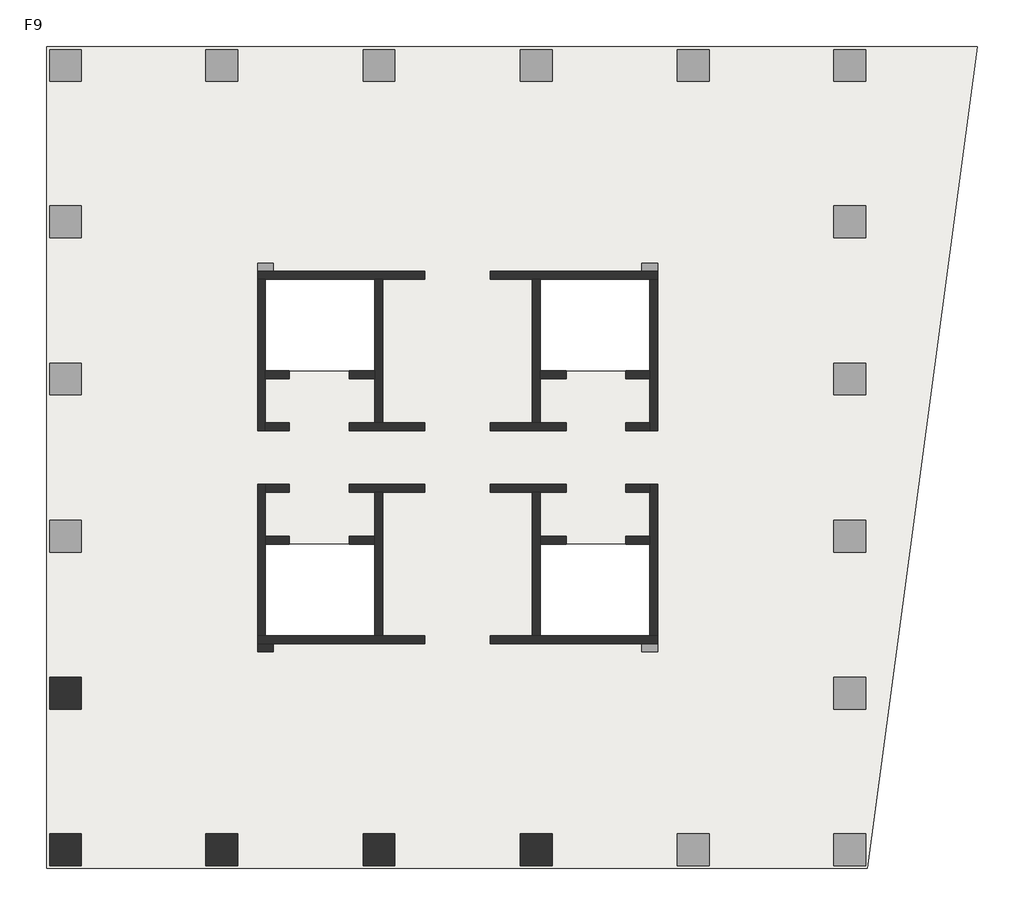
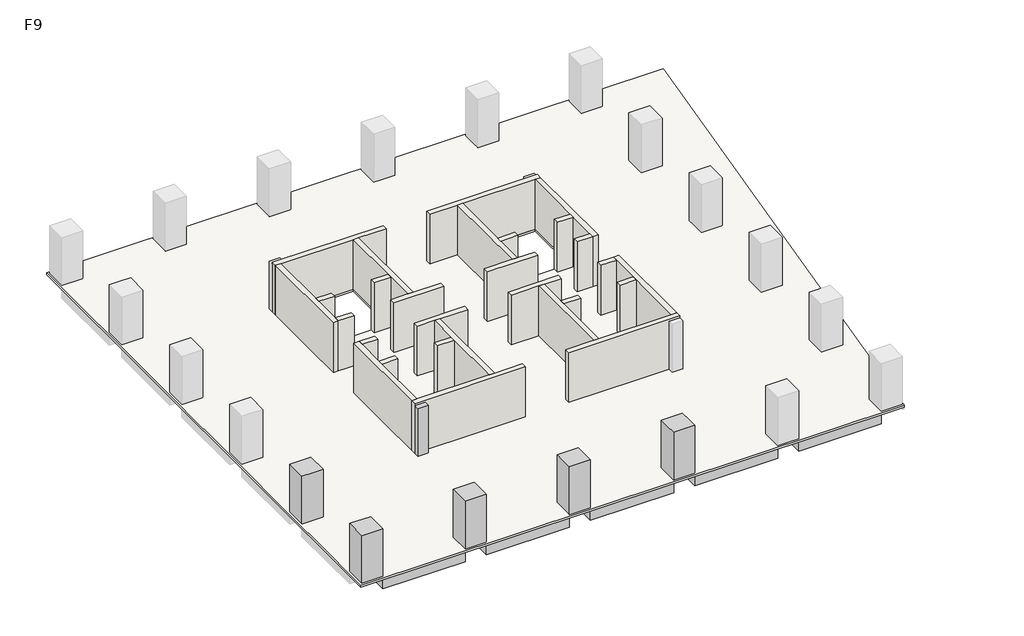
# One storey, part 1 of 2: 28 walls, 6 columns, 5 beams, 1 slab.
"""IFC4 building model written with IfcOpenShell, lengths in millimetres."""

import ifcopenshell
import ifcopenshell.guid

model = None  # the IFC model being written
_history = None  # IfcOwnerHistory: only IFC2X3 demands one
_inside = {}  # id of a spatial element -> (the spatial element, [elements in it])
_under = {}  # id of a project, library or spatial element -> (it, [spatial elements below it])
_declared = {}  # id of a project -> (the project, [libraries it declares])
_typed = {}  # id of a type object -> (the type object, [elements of that type])
_made_of = {}  # id of a material, layer set ... -> (it, [elements and type objects made of it])


def new_model(schema):
    """Start an empty IFC model of exactly this schema.

    Asked for "IFC4X3", IfcOpenShell would pick the latest addendum, in which some entities
    have other attributes; the version numbers below select the first issue.
    IFC2X3 requires an IfcOwnerHistory on every rooted entity: one is made here for all.
    """
    global model, _history
    if schema == "IFC4X3":
        model = ifcopenshell.file(schema_version=(4, 3, 0, 0))
    else:
        model = ifcopenshell.file(schema=schema)
    _inside.clear()
    _under.clear()
    _declared.clear()
    _typed.clear()
    _made_of.clear()
    _history = None
    if model.schema == "IFC2X3":
        org = make("IfcOrganization", Name="unknown")
        user = make(
            "IfcPersonAndOrganization",
            ThePerson=make("IfcPerson", FamilyName="unknown"),
            TheOrganization=org,
        )
        app = make(
            "IfcApplication",
            ApplicationDeveloper=org,
            Version="unknown",
            ApplicationFullName="unknown",
            ApplicationIdentifier="unknown",
        )
        _history = make(
            "IfcOwnerHistory",
            OwningUser=user,
            OwningApplication=app,
            ChangeAction="ADDED",
            CreationDate=0,
        )
    return model


def make(cls, **values):
    """One entity of the class cls with the attributes given. An attribute that is None is left unset."""
    return model.create_entity(
        cls, **{name: value for name, value in values.items() if value is not None}
    )


def rooted(cls, **values):
    """An entity with a GlobalId (a new one), such as an element, a storey or a relation."""
    return make(cls, GlobalId=ifcopenshell.guid.new(), OwnerHistory=_history, **values)


def si_unit(unit_type, name, prefix=None):
    """IfcSIUnit, for example si_unit("LENGTHUNIT", "METRE", prefix="MILLI")."""
    return make("IfcSIUnit", UnitType=unit_type, Prefix=prefix, Name=name)


def assignment(units):
    """IfcUnitAssignment: the units of a project."""
    return None if units is None else make("IfcUnitAssignment", Units=units)


def point(xyz):
    """IfcCartesianPoint."""
    return None if xyz is None else make("IfcCartesianPoint", Coordinates=xyz)


def direction(xyz):
    """IfcDirection."""
    return None if xyz is None else make("IfcDirection", DirectionRatios=xyz)


def frame(location, z_axis=None, x_axis=None):
    """IfcAxis2Placement3D, a coordinate frame: its origin and axes. An axis left out is left unset."""
    return make(
        "IfcAxis2Placement3D",
        Location=point(location),
        Axis=direction(z_axis),
        RefDirection=direction(x_axis),
    )


def origin():
    """The frame at (0, 0, 0) with its axes left unset."""
    return frame((0.0, 0.0, 0.0))


def place(relative_to, where):
    """IfcLocalPlacement: puts the frame where relative to a parent placement (None: the world)."""
    return make(
        "IfcLocalPlacement", PlacementRelTo=relative_to, RelativePlacement=where
    )


def context(
    kind, dimensions, precision=None, world=None, true_north=None, identifier=None
):
    """IfcGeometricRepresentationContext, for example the 3D "Model" context."""
    return make(
        "IfcGeometricRepresentationContext",
        ContextIdentifier=identifier,
        ContextType=kind,
        CoordinateSpaceDimension=dimensions,
        Precision=precision,
        WorldCoordinateSystem=world,
        TrueNorth=true_north,
    )


def project(units=None, contexts=None):
    """IfcProject with its units and contexts."""
    return rooted(
        "IfcProject",
        Name="project",
        RepresentationContexts=contexts,
        UnitsInContext=assignment(units),
    )


def spatial(cls, under=None, at=None, **own):
    """A site, building, storey or space (cls), placed at a placement, below another one or the project."""
    s = rooted(cls, ObjectPlacement=at, **own)
    if under is not None:
        _under.setdefault(under.id(), (under, []))[1].append(s)
    return s


def polyline(points):
    """IfcPolyline through the points."""
    return make("IfcPolyline", Points=[point(p) for p in points])


def outline(outer, holes=None, kind="AREA"):
    """IfcArbitraryClosedProfileDef: a profile drawn as a closed curve; with holes, ...WithVoids."""
    if holes is None:
        return make("IfcArbitraryClosedProfileDef", ProfileType=kind, OuterCurve=outer)
    return make(
        "IfcArbitraryProfileDefWithVoids",
        ProfileType=kind,
        OuterCurve=outer,
        InnerCurves=holes,
    )


def extrude(swept, where, along, depth):
    """IfcExtrudedAreaSolid: the profile swept, set in the frame where, extruded along a direction by depth."""
    return make(
        "IfcExtrudedAreaSolid",
        SweptArea=swept,
        Position=where,
        ExtrudedDirection=direction(along),
        Depth=depth,
    )


def faces_of(points, faces, orient=None, outer=None):
    """IfcFace entities. A face is a list of loops; a loop is a list of indices into points, from 0.

    orient and outer hold one flag for each loop. By default every Orientation is true, the
    first loop of a face is its IfcFaceOuterBound and the others are IfcFaceBound.
    """
    made = []
    for i, loops in enumerate(faces):
        bounds = []
        for j, loop in enumerate(loops):
            is_outer = j == 0 if outer is None else outer[i][j]
            bounds.append(
                make(
                    "IfcFaceOuterBound" if is_outer else "IfcFaceBound",
                    Bound=make("IfcPolyLoop", Polygon=[points[k] for k in loop]),
                    Orientation=True if orient is None else orient[i][j],
                )
            )
        made.append(make("IfcFace", Bounds=bounds))
    return made


def faceted_brep(points, faces, orient=None, outer=None, voids=None):
    """IfcFacetedBrep: a solid bounded by flat faces; with voids (closed shells), ...WithVoids."""
    shared = [point(p) for p in points]
    hull = make("IfcClosedShell", CfsFaces=faces_of(shared, faces, orient, outer))
    if voids is None:
        return make("IfcFacetedBrep", Outer=hull)
    return make(
        "IfcFacetedBrepWithVoids",
        Outer=hull,
        Voids=[
            make(cls, CfsFaces=faces_of(shared, fs, o, b)) for cls, fs, o, b in voids
        ],
    )


def shape(context_of_items, identifier, shape_type, items):
    """IfcShapeRepresentation: the items that make up one representation, for example the "Body"."""
    return make(
        "IfcShapeRepresentation",
        ContextOfItems=context_of_items,
        RepresentationIdentifier=identifier,
        RepresentationType=shape_type,
        Items=items,
    )


def made_of(thing, what):
    """Note that an element or type object is made of a material, layer set ...; save() writes the relation."""
    if what is not None:
        _made_of.setdefault(what.id(), (what, []))[1].append(thing)
    return thing


def element(
    cls,
    number,
    at=None,
    inside=None,
    cuts=None,
    type_object=None,
    material=None,
    context=None,
    identifier="Body",
    shape_type=None,
    held_by="IfcProductDefinitionShape",
    body=None,
    shapes=None,
    **own,
):
    """One element of the class cls, such as IfcWall. Its Tag is "e" and its number.

    at: its placement. inside: the storey or other place that contains it. cuts: it is an
    opening in that element (IfcRelVoidsElement). A single representation is given by context,
    identifier, shape_type and body (its items); several are given by shapes. held_by: the class
    of the entity that holds the representations. save() writes the other relations.
    """
    e = rooted(cls, Tag="e%d" % number, ObjectPlacement=at, **own)
    if body is not None:
        shapes = [shape(context, identifier, shape_type, body)]
    if shapes is not None:
        e.Representation = make(held_by, Representations=shapes)
    if inside is not None:
        _inside.setdefault(inside.id(), (inside, []))[1].append(e)
    if cuts is not None:
        rooted(
            "IfcRelVoidsElement", RelatingBuildingElement=cuts, RelatedOpeningElement=e
        )
    if type_object is not None:
        _typed.setdefault(type_object.id(), (type_object, []))[1].append(e)
    return made_of(e, material)


def aggregate(whole, parts):
    """IfcRelAggregates: a whole, such as a stair, and the parts it consists of."""
    return rooted("IfcRelAggregates", RelatingObject=whole, RelatedObjects=parts)


def save(model, path):
    """Write the relations noted so far, then the file.

    IfcRelAggregates (storeys below a building ...), IfcRelContainedInSpatialStructure (elements
    in a storey), IfcRelDefinesByType, IfcRelAssociatesMaterial and IfcRelDeclares: one each for
    every whole, place, type object, material and project.
    """
    for whole, parts in _under.values():
        aggregate(whole, parts)
    for where, things in _inside.values():
        rooted(
            "IfcRelContainedInSpatialStructure",
            RelatedElements=things,
            RelatingStructure=where,
        )
    for kind, things in _typed.values():
        rooted("IfcRelDefinesByType", RelatedObjects=things, RelatingType=kind)
    for what, things in _made_of.values():
        rooted("IfcRelAssociatesMaterial", RelatedObjects=things, RelatingMaterial=what)
    for by, libraries in _declared.values():
        rooted("IfcRelDeclares", RelatingContext=by, RelatedDefinitions=libraries)
    model.write(path)


model = new_model("IFC4")

# Units and contexts
model_context = context("Model", 3, world=origin())
ifc_project = project(units=[si_unit("LENGTHUNIT", "METRE", prefix="MILLI")], contexts=[model_context])

# Site, building, storey
site = spatial("IfcSite", under=ifc_project)
building = spatial("IfcBuilding", under=site)
storey = spatial("IfcBuildingStorey", under=building, Name="F9", Elevation=36000.0)

# Beams
placement = place(None, origin())
element("IfcBeam", 1, ObjectType="混凝土 - 矩形梁 : KL(5)-800x1000", at=placement, inside=storey, context=model_context, shape_type="SweptSolid", body=[
    extrude(outline(polyline([(-12472.6742169, -13948.9501342), (-12472.6742169, -13148.9501342), (-6222.6742169, -13148.9501342), (-6222.6742169, -13948.9501342), (-12472.6742169, -13948.9501342)])), frame((0.0, 0.0, 35000.0), z_axis=(0.0, 0.0, 1.0), x_axis=(1.0, 0.0, 0.0)), (0.0, 0.0, 1.0), 840.0),
    extrude(outline(polyline([(25327.3257831, -13148.9501342), (25327.3257831, -13948.9501342), (19077.3257831, -13948.9501342), (19077.3257831, -13148.9501342), (25327.3257831, -13148.9501342)])), frame((0.0, 0.0, 35000.0), z_axis=(0.0, 0.0, 1.0), x_axis=(1.0, 0.0, 0.0)), (0.0, 0.0, 1.0), 840.0),
    extrude(outline(polyline([(-4622.6742169, -13948.9501342), (-4622.6742169, -13148.9501342), (1677.3257831, -13148.9501342), (1677.3257831, -13948.9501342), (-4622.6742169, -13948.9501342)])), frame((0.0, 0.0, 35000.0), z_axis=(0.0, 0.0, 1.0), x_axis=(1.0, 0.0, 0.0)), (0.0, 0.0, 1.0), 840.0),
    extrude(outline(polyline([(3277.3257831, -13948.9501342), (3277.3257831, -13148.9501342), (9577.3257831, -13148.9501342), (9577.3257831, -13948.9501342), (3277.3257831, -13948.9501342)])), frame((0.0, 0.0, 35000.0), z_axis=(0.0, 0.0, 1.0), x_axis=(1.0, 0.0, 0.0)), (0.0, 0.0, 1.0), 840.0),
    extrude(outline(polyline([(11177.3257831, -13948.9501342), (11177.3257831, -13148.9501342), (17477.3257831, -13148.9501342), (17477.3257831, -13948.9501342), (11177.3257831, -13948.9501342)])), frame((0.0, 0.0, 35000.0), z_axis=(0.0, 0.0, 1.0), x_axis=(1.0, 0.0, 0.0)), (0.0, 0.0, 1.0), 840.0),
])
element("IfcBeam", 2, ObjectType="混凝土 - 矩形梁 : L1-800x500", at=placement, inside=storey, context=model_context, shape_type="Brep", body=[
    faceted_brep([(-12472.6742169, -5512.1353397, 35500.0), (-3746.9473979, -3341.556529, 35500.0), (-3173.6696907, -3198.9501342, 35500.0), (-3173.6696907, -3198.9501342, 35840.0), (-3746.9473979, -3341.556529, 35840.0), (-12472.6742169, -5512.1353397, 35840.0), (-3622.6742169, -3198.9501342, 35500.0), (-12472.6742169, -4687.7549784, 35500.0), (-3622.6742169, -2486.2624411, 35500.0), (-3622.6742169, -2798.9501342, 35500.0), (-12472.6742169, -4687.7549784, 35840.0), (-3622.6742169, -2486.2624411, 35840.0), (-3622.6742169, -3198.9501342, 35840.0)], [[[0, 1, 2, 3, 4, 5]], [[6, 2, 1, 0, 7, 8, 9]], [[8, 7, 10, 11]], [[2, 6, 12, 3]], [[9, 8, 11, 12, 6]], [[7, 0, 5, 10]], [[5, 4, 3, 12, 11, 10]]]),
])
element("IfcBeam", 3, ObjectType="混凝土 - 矩形梁 : L1-800x500", at=placement, inside=storey, context=model_context, shape_type="SweptSolid", body=[
    extrude(outline(polyline([(-3746.9473979, -3341.556529), (-3173.6696907, -3198.9501342), (-2898.7618154, -3198.9501342), (-4843.6893517, -12348.9501342), (-5661.5624638, -12348.9501342), (-3746.9473979, -3341.556529)])), frame((0.0, 0.0, 35500.0), z_axis=(0.0, 0.0, 1.0), x_axis=(1.0, 0.0, 0.0)), (0.0, 0.0, 1.0), 340.0),
])
element("IfcBeam", 4, ObjectType="混凝土 - 矩形梁 : L1-800x500", at=placement, inside=storey, context=model_context, shape_type="SweptSolid", body=[
    extrude(outline(polyline([(2877.3257831, -12348.9501342), (2077.3257831, -12348.9501342), (2077.3257831, -2798.9501342), (2877.3257831, -2798.9501342), (2877.3257831, -12348.9501342)])), frame((0.0, 0.0, 35500.0), z_axis=(0.0, 0.0, 1.0), x_axis=(1.0, 0.0, 0.0)), (0.0, 0.0, 1.0), 340.0),
])
element("IfcBeam", 5, ObjectType="混凝土 - 矩形梁 : L1-800x500", at=placement, inside=storey, context=model_context, shape_type="SweptSolid", body=[
    extrude(outline(polyline([(10777.3257831, -12348.9501342), (9977.3257831, -12348.9501342), (9977.3257831, -2798.9501342), (10777.3257831, -2798.9501342), (10777.3257831, -12348.9501342)])), frame((0.0, 0.0, 35500.0), z_axis=(0.0, 0.0, 1.0), x_axis=(1.0, 0.0, 0.0)), (0.0, 0.0, 1.0), 340.0),
])

# Columns
element("IfcColumn", 6, ObjectType="混凝土 - 矩形 - 柱 : Z1-1600x1600", at=placement, inside=storey, context=model_context, shape_type="Brep", body=[
    faceted_brep([(-12472.6742169, -4498.9501342, 36000.0), (-12472.6742169, -6098.9501342, 36000.0), (-14072.6742169, -6098.9501342, 36000.0), (-14072.6742169, -4498.9501342, 36000.0), (-12472.6742169, -4498.9501342, 39840.0), (-12472.6742169, -6098.9501342, 39840.0), (-13272.6742169, -6098.9501342, 39840.0), (-14072.6742169, -6098.9501342, 39840.0), (-14072.6742169, -6098.9501342, 39000.0), (-14072.6742169, -4498.9501342, 39840.0), (-14072.6742169, -4498.9501342, 39000.0), (-13272.6742169, -4498.9501342, 39840.0)], [[[0, 1, 2, 3]], [[1, 0, 4, 5]], [[2, 1, 5, 6, 7, 8]], [[3, 2, 8, 7, 9, 10]], [[0, 3, 10, 9, 11, 4]], [[5, 4, 11, 9, 7, 6]]]),
])
element("IfcColumn", 7, ObjectType="混凝土 - 矩形 - 柱 : Z1-1600x1600", at=placement, inside=storey, context=model_context, shape_type="SweptSolid", body=[
    extrude(outline(polyline([(-12472.6742169, -12348.9501342), (-12472.6742169, -13948.9501342), (-14072.6742169, -13948.9501342), (-14072.6742169, -12348.9501342), (-12472.6742169, -12348.9501342)])), frame((0.0, 0.0, 36000.0), z_axis=(0.0, 0.0, 1.0), x_axis=(1.0, 0.0, 0.0)), (0.0, 0.0, 1.0), 3840.0),
])
element("IfcColumn", 8, ObjectType="混凝土 - 矩形 - 柱 : Z1-1600x1600", at=placement, inside=storey, context=model_context, shape_type="Brep", body=[
    faceted_brep([(-4622.6742169, -12348.9501342, 36000.0), (-4622.6742169, -13948.9501342, 36000.0), (-6222.6742169, -13948.9501342, 36000.0), (-6222.6742169, -12348.9501342, 36000.0), (-4622.6742169, -12348.9501342, 39840.0), (-4622.6742169, -13148.9501342, 39840.0), (-4622.6742169, -13948.9501342, 39840.0), (-4622.6742169, -13948.9501342, 39000.0), (-6222.6742169, -13948.9501342, 39840.0), (-6222.6742169, -13948.9501342, 39000.0), (-6222.6742169, -13148.9501342, 39840.0), (-6222.6742169, -12348.9501342, 39840.0)], [[[0, 1, 2, 3]], [[1, 0, 4, 5, 6, 7]], [[2, 1, 7, 6, 8, 9]], [[3, 2, 9, 8, 10, 11]], [[0, 3, 11, 4]], [[6, 5, 4, 11, 10, 8]]]),
])
element("IfcColumn", 9, ObjectType="混凝土 - 矩形 - 柱 : Z1-1600x1600", at=placement, inside=storey, context=model_context, shape_type="Brep", body=[
    faceted_brep([(3277.3257831, -12348.9501342, 36000.0), (3277.3257831, -13948.9501342, 36000.0), (1677.3257831, -13948.9501342, 36000.0), (1677.3257831, -12348.9501342, 36000.0), (3277.3257831, -12348.9501342, 39840.0), (3277.3257831, -13148.9501342, 39840.0), (3277.3257831, -13948.9501342, 39840.0), (3277.3257831, -13948.9501342, 39000.0), (1677.3257831, -13948.9501342, 39840.0), (1677.3257831, -13948.9501342, 39000.0), (1677.3257831, -13148.9501342, 39840.0), (1677.3257831, -12348.9501342, 39840.0)], [[[0, 1, 2, 3]], [[1, 0, 4, 5, 6, 7]], [[2, 1, 7, 6, 8, 9]], [[3, 2, 9, 8, 10, 11]], [[0, 3, 11, 4]], [[6, 5, 4, 11, 10, 8]]]),
])
element("IfcColumn", 10, ObjectType="混凝土 - 矩形 - 柱 : Z1-1600x1600", at=placement, inside=storey, context=model_context, shape_type="Brep", body=[
    faceted_brep([(11177.3257831, -12348.9501342, 36000.0), (11177.3257831, -13948.9501342, 36000.0), (9577.3257831, -13948.9501342, 36000.0), (9577.3257831, -12348.9501342, 36000.0), (11177.3257831, -12348.9501342, 39840.0), (11177.3257831, -13148.9501342, 39840.0), (11177.3257831, -13948.9501342, 39840.0), (11177.3257831, -13948.9501342, 39000.0), (9577.3257831, -13948.9501342, 39840.0), (9577.3257831, -13948.9501342, 39000.0), (9577.3257831, -13148.9501342, 39840.0), (9577.3257831, -12348.9501342, 39840.0)], [[[0, 1, 2, 3]], [[1, 0, 4, 5, 6, 7]], [[2, 1, 7, 6, 8, 9]], [[3, 2, 9, 8, 10, 11]], [[0, 3, 11, 4]], [[6, 5, 4, 11, 10, 8]]]),
])
element("IfcColumn", 11, ObjectType="混凝土 - 矩形 - 柱 : Z2-800x800", at=placement, inside=storey, context=model_context, shape_type="SweptSolid", body=[
    extrude(outline(polyline([(-2822.6742169, -3198.9501342), (-3622.6742169, -3198.9501342), (-3622.6742169, -2798.9501342), (-2822.6742169, -2798.9501342), (-2822.6742169, -3198.9501342)])), frame((0.0, 0.0, 36000.0), z_axis=(0.0, 0.0, 1.0), x_axis=(1.0, 0.0, 0.0)), (0.0, 0.0, 1.0), 3840.0),
])

# Slab
element("IfcSlab", 12, ObjectType="LB-160", at=placement, inside=storey, context=model_context, shape_type="Brep", body=[
    faceted_brep([(32549.4477343, 27201.0498658, 35840.0), (32422.0087099, 26251.0498658, 35840.0), (27029.3257831, -13948.9501342, 35840.0), (27011.0393465, -14085.2672073, 35840.0), (-14222.6742169, -14085.2672073, 35840.0), (-14222.6742169, 27201.0498658, 35840.0), (2277.3257831, 15501.0498658, 35840.0), (-3222.6742169, 15501.0498658, 35840.0), (-3222.6742169, 10901.0498658, 35840.0), (2277.3257831, 10901.0498658, 35840.0), (2277.3257831, 2201.0498658, 35840.0), (-3222.6742169, 2201.0498658, 35840.0), (-3222.6742169, -2398.9501342, 35840.0), (2277.3257831, -2398.9501342, 35840.0), (16077.3257831, 2201.0498658, 35840.0), (10577.3257831, 2201.0498658, 35840.0), (10577.3257831, -2398.9501342, 35840.0), (16077.3257831, -2398.9501342, 35840.0), (16077.3257831, 15501.0498658, 35840.0), (10577.3257831, 15501.0498658, 35840.0), (10577.3257831, 10901.0498658, 35840.0), (16077.3257831, 10901.0498658, 35840.0), (32549.4477343, 27201.0498658, 36000.0), (-14222.6742169, 27201.0498658, 36000.0), (-14222.6742169, -14085.2672073, 36000.0), (27011.0393465, -14085.2672073, 36000.0), (2277.3257831, 15501.0498658, 36000.0), (2277.3257831, 10901.0498658, 36000.0), (-3222.6742169, 10901.0498658, 36000.0), (-3222.6742169, 15501.0498658, 36000.0), (2277.3257831, 2201.0498658, 36000.0), (2277.3257831, -2398.9501342, 36000.0), (-3222.6742169, -2398.9501342, 36000.0), (-3222.6742169, 2201.0498658, 36000.0), (16077.3257831, 2201.0498658, 36000.0), (16077.3257831, -2398.9501342, 36000.0), (10577.3257831, -2398.9501342, 36000.0), (10577.3257831, 2201.0498658, 36000.0), (16077.3257831, 15501.0498658, 36000.0), (16077.3257831, 10901.0498658, 36000.0), (10577.3257831, 10901.0498658, 36000.0), (10577.3257831, 15501.0498658, 36000.0)], [[[0, 1, 2, 3, 4, 5], [6, 7, 8, 9], [10, 11, 12, 13], [14, 15, 16, 17], [18, 19, 20, 21]], [[22, 23, 24, 25], [26, 27, 28, 29], [30, 31, 32, 33], [34, 35, 36, 37], [38, 39, 40, 41]], [[3, 2, 1, 0, 22, 25]], [[4, 3, 25, 24]], [[5, 4, 24, 23]], [[0, 5, 23, 22]], [[7, 6, 26, 29]], [[8, 7, 29, 28]], [[9, 8, 28, 27]], [[6, 9, 27, 26]], [[11, 10, 30, 33]], [[12, 11, 33, 32]], [[13, 12, 32, 31]], [[10, 13, 31, 30]], [[15, 14, 34, 37]], [[16, 15, 37, 36]], [[17, 16, 36, 35]], [[14, 17, 35, 34]], [[19, 18, 38, 41]], [[20, 19, 41, 40]], [[21, 20, 40, 39]], [[18, 21, 39, 38]]]),
])

# Walls
element("IfcWall", 13, ObjectType="剪力墙-400", at=placement, inside=storey, context=model_context, shape_type="Brep", body=[
    faceted_brep([(-3622.6742169, 15501.0498658, 36000.0), (-3222.6742169, 15501.0498658, 36000.0), (2277.3257831, 15501.0498658, 36000.0), (2677.3257831, 15501.0498658, 36000.0), (4777.3257831, 15501.0498658, 36000.0), (4777.3257831, 15501.0498658, 40000.0), (2677.3257831, 15501.0498658, 40000.0), (2277.3257831, 15501.0498658, 40000.0), (-3222.6742169, 15501.0498658, 40000.0), (-3622.6742169, 15501.0498658, 40000.0), (-3622.6742169, 15901.0498658, 36000.0), (-3622.6742169, 15901.0498658, 39840.0), (-3622.6742169, 15901.0498658, 40000.0), (4777.3257831, 15901.0498658, 40000.0), (4777.3257831, 15901.0498658, 36000.0), (-2822.6742169, 15901.0498658, 36000.0)], [[[0, 1, 2, 3, 4, 5, 6, 7, 8, 9]], [[10, 11, 12, 13, 14, 15]], [[4, 3, 2, 1, 0, 10, 15, 14]], [[5, 4, 14, 13]], [[9, 8, 7, 6, 5, 13, 12]], [[0, 9, 12, 11, 10]]]),
])
element("IfcWall", 14, ObjectType="剪力墙-400", at=placement, inside=storey, context=model_context, shape_type="Brep", body=[
    faceted_brep([(2277.3257831, 15501.0498658, 36000.0), (2277.3257831, 10901.0498658, 36000.0), (2277.3257831, 10501.0498658, 36000.0), (2277.3257831, 8301.0498658, 36000.0), (2277.3257831, 8301.0498658, 40000.0), (2277.3257831, 10501.0498658, 40000.0), (2277.3257831, 10901.0498658, 40000.0), (2277.3257831, 15501.0498658, 40000.0), (2677.3257831, 15501.0498658, 36000.0), (2677.3257831, 15501.0498658, 40000.0), (2677.3257831, 8301.0498658, 40000.0), (2677.3257831, 8301.0498658, 36000.0)], [[[0, 1, 2, 3, 4, 5, 6, 7]], [[8, 9, 10, 11]], [[3, 2, 1, 0, 8, 11]], [[7, 6, 5, 4, 10, 9]], [[0, 7, 9, 8]], [[4, 3, 11, 10]]]),
])
element("IfcWall", 15, ObjectType="剪力墙-400", at=placement, inside=storey, context=model_context, shape_type="Brep", body=[
    faceted_brep([(-3622.6742169, 15501.0498658, 36000.0), (-3622.6742169, 7901.0498658, 36000.0), (-3622.6742169, 7901.0498658, 40000.0), (-3622.6742169, 15501.0498658, 40000.0), (-3222.6742169, 15501.0498658, 36000.0), (-3222.6742169, 15501.0498658, 40000.0), (-3222.6742169, 10901.0498658, 40000.0), (-3222.6742169, 10501.0498658, 40000.0), (-3222.6742169, 8301.0498658, 40000.0), (-3222.6742169, 7901.0498658, 40000.0), (-3222.6742169, 7901.0498658, 36000.0), (-3222.6742169, 8301.0498658, 36000.0), (-3222.6742169, 10501.0498658, 36000.0), (-3222.6742169, 10901.0498658, 36000.0)], [[[0, 1, 2, 3]], [[4, 5, 6, 7, 8, 9, 10, 11, 12, 13]], [[1, 0, 4, 13, 12, 11, 10]], [[3, 2, 9, 8, 7, 6, 5]], [[0, 3, 5, 4]], [[2, 1, 10, 9]]]),
])
element("IfcWall", 16, ObjectType="剪力墙-400", at=placement, inside=storey, context=model_context, shape_type="SweptSolid", body=[
    extrude(outline(polyline([(-2022.6742169, 7901.0498658), (-3222.6742169, 7901.0498658), (-3222.6742169, 8301.0498658), (-2022.6742169, 8301.0498658), (-2022.6742169, 7901.0498658)])), frame((0.0, 0.0, 36000.0), z_axis=(0.0, 0.0, 1.0), x_axis=(1.0, 0.0, 0.0)), (0.0, 0.0, 1.0), 4000.0),
])
element("IfcWall", 17, ObjectType="剪力墙-400", at=placement, inside=storey, context=model_context, shape_type="Brep", body=[
    faceted_brep([(977.3257831, 7901.0498658, 36000.0), (4777.3257831, 7901.0498658, 36000.0), (4777.3257831, 7901.0498658, 40000.0), (977.3257831, 7901.0498658, 40000.0), (977.3257831, 8301.0498658, 36000.0), (977.3257831, 8301.0498658, 40000.0), (2277.3257831, 8301.0498658, 40000.0), (2677.3257831, 8301.0498658, 40000.0), (4777.3257831, 8301.0498658, 40000.0), (4777.3257831, 8301.0498658, 36000.0), (2677.3257831, 8301.0498658, 36000.0), (2277.3257831, 8301.0498658, 36000.0)], [[[0, 1, 2, 3]], [[4, 5, 6, 7, 8, 9, 10, 11]], [[1, 0, 4, 11, 10, 9]], [[2, 1, 9, 8]], [[3, 2, 8, 7, 6, 5]], [[0, 3, 5, 4]]]),
])
element("IfcWall", 18, ObjectType="剪力墙-400", at=placement, inside=storey, context=model_context, shape_type="SweptSolid", body=[
    extrude(outline(polyline([(-2022.6742169, 10501.0498658), (-3222.6742169, 10501.0498658), (-3222.6742169, 10901.0498658), (-2022.6742169, 10901.0498658), (-2022.6742169, 10501.0498658)])), frame((0.0, 0.0, 36000.0), z_axis=(0.0, 0.0, 1.0), x_axis=(1.0, 0.0, 0.0)), (0.0, 0.0, 1.0), 4000.0),
])
element("IfcWall", 19, ObjectType="剪力墙-400", at=placement, inside=storey, context=model_context, shape_type="SweptSolid", body=[
    extrude(outline(polyline([(2277.3257831, 10501.0498658), (977.3257831, 10501.0498658), (977.3257831, 10901.0498658), (2277.3257831, 10901.0498658), (2277.3257831, 10501.0498658)])), frame((0.0, 0.0, 36000.0), z_axis=(0.0, 0.0, 1.0), x_axis=(1.0, 0.0, 0.0)), (0.0, 0.0, 1.0), 4000.0),
])
element("IfcWall", 20, ObjectType="剪力墙-400", at=placement, inside=storey, context=model_context, shape_type="Brep", body=[
    faceted_brep([(16477.3257831, 15901.0498658, 36000.0), (15677.3257831, 15901.0498658, 36000.0), (8077.3257831, 15901.0498658, 36000.0), (8077.3257831, 15901.0498658, 40000.0), (16477.3257831, 15901.0498658, 40000.0), (16477.3257831, 15901.0498658, 39840.0), (16477.3257831, 15501.0498658, 36000.0), (16477.3257831, 15501.0498658, 40000.0), (16077.3257831, 15501.0498658, 40000.0), (10577.3257831, 15501.0498658, 40000.0), (10177.3257831, 15501.0498658, 40000.0), (8077.3257831, 15501.0498658, 40000.0), (8077.3257831, 15501.0498658, 36000.0), (10177.3257831, 15501.0498658, 36000.0), (10577.3257831, 15501.0498658, 36000.0), (16077.3257831, 15501.0498658, 36000.0)], [[[0, 1, 2, 3, 4, 5]], [[6, 7, 8, 9, 10, 11, 12, 13, 14, 15]], [[2, 1, 0, 6, 15, 14, 13, 12]], [[3, 2, 12, 11]], [[4, 3, 11, 10, 9, 8, 7]], [[0, 5, 4, 7, 6]]]),
])
element("IfcWall", 21, ObjectType="剪力墙-400", at=placement, inside=storey, context=model_context, shape_type="Brep", body=[
    faceted_brep([(10177.3257831, 15501.0498658, 36000.0), (10177.3257831, 8301.0498658, 36000.0), (10177.3257831, 8301.0498658, 40000.0), (10177.3257831, 15501.0498658, 40000.0), (10577.3257831, 15501.0498658, 36000.0), (10577.3257831, 15501.0498658, 40000.0), (10577.3257831, 10901.0498658, 40000.0), (10577.3257831, 10501.0498658, 40000.0), (10577.3257831, 8301.0498658, 40000.0), (10577.3257831, 8301.0498658, 36000.0), (10577.3257831, 10501.0498658, 36000.0), (10577.3257831, 10901.0498658, 36000.0)], [[[0, 1, 2, 3]], [[4, 5, 6, 7, 8, 9, 10, 11]], [[1, 0, 4, 11, 10, 9]], [[3, 2, 8, 7, 6, 5]], [[0, 3, 5, 4]], [[2, 1, 9, 8]]]),
])
element("IfcWall", 22, ObjectType="剪力墙-400", at=placement, inside=storey, context=model_context, shape_type="Brep", body=[
    faceted_brep([(16077.3257831, 15501.0498658, 36000.0), (16077.3257831, 10901.0498658, 36000.0), (16077.3257831, 10501.0498658, 36000.0), (16077.3257831, 8301.0498658, 36000.0), (16077.3257831, 7901.0498658, 36000.0), (16077.3257831, 7901.0498658, 40000.0), (16077.3257831, 8301.0498658, 40000.0), (16077.3257831, 10501.0498658, 40000.0), (16077.3257831, 10901.0498658, 40000.0), (16077.3257831, 15501.0498658, 40000.0), (16477.3257831, 15501.0498658, 36000.0), (16477.3257831, 15501.0498658, 40000.0), (16477.3257831, 7901.0498658, 40000.0), (16477.3257831, 7901.0498658, 36000.0)], [[[0, 1, 2, 3, 4, 5, 6, 7, 8, 9]], [[10, 11, 12, 13]], [[4, 3, 2, 1, 0, 10, 13]], [[9, 8, 7, 6, 5, 12, 11]], [[0, 9, 11, 10]], [[5, 4, 13, 12]]]),
])
element("IfcWall", 23, ObjectType="剪力墙-400", at=placement, inside=storey, context=model_context, shape_type="SweptSolid", body=[
    extrude(outline(polyline([(14877.3257831, 8301.0498658), (16077.3257831, 8301.0498658), (16077.3257831, 7901.0498658), (14877.3257831, 7901.0498658), (14877.3257831, 8301.0498658)])), frame((0.0, 0.0, 36000.0), z_axis=(0.0, 0.0, 1.0), x_axis=(1.0, 0.0, 0.0)), (0.0, 0.0, 1.0), 4000.0),
])
element("IfcWall", 24, ObjectType="剪力墙-400", at=placement, inside=storey, context=model_context, shape_type="Brep", body=[
    faceted_brep([(11877.3257831, 8301.0498658, 36000.0), (10577.3257831, 8301.0498658, 36000.0), (10177.3257831, 8301.0498658, 36000.0), (8077.3257831, 8301.0498658, 36000.0), (8077.3257831, 8301.0498658, 40000.0), (10177.3257831, 8301.0498658, 40000.0), (10577.3257831, 8301.0498658, 40000.0), (11877.3257831, 8301.0498658, 40000.0), (11877.3257831, 7901.0498658, 36000.0), (11877.3257831, 7901.0498658, 40000.0), (8077.3257831, 7901.0498658, 40000.0), (8077.3257831, 7901.0498658, 36000.0)], [[[0, 1, 2, 3, 4, 5, 6, 7]], [[8, 9, 10, 11]], [[3, 2, 1, 0, 8, 11]], [[4, 3, 11, 10]], [[7, 6, 5, 4, 10, 9]], [[0, 7, 9, 8]]]),
])
element("IfcWall", 25, ObjectType="剪力墙-400", at=placement, inside=storey, context=model_context, shape_type="SweptSolid", body=[
    extrude(outline(polyline([(14877.3257831, 10901.0498658), (16077.3257831, 10901.0498658), (16077.3257831, 10501.0498658), (14877.3257831, 10501.0498658), (14877.3257831, 10901.0498658)])), frame((0.0, 0.0, 36000.0), z_axis=(0.0, 0.0, 1.0), x_axis=(1.0, 0.0, 0.0)), (0.0, 0.0, 1.0), 4000.0),
])
element("IfcWall", 26, ObjectType="剪力墙-400", at=placement, inside=storey, context=model_context, shape_type="SweptSolid", body=[
    extrude(outline(polyline([(10577.3257831, 10901.0498658), (11877.3257831, 10901.0498658), (11877.3257831, 10501.0498658), (10577.3257831, 10501.0498658), (10577.3257831, 10901.0498658)])), frame((0.0, 0.0, 36000.0), z_axis=(0.0, 0.0, 1.0), x_axis=(1.0, 0.0, 0.0)), (0.0, 0.0, 1.0), 4000.0),
])
element("IfcWall", 27, ObjectType="剪力墙-400", at=placement, inside=storey, context=model_context, shape_type="Brep", body=[
    faceted_brep([(-3622.6742169, -2798.9501342, 36000.0), (-2822.6742169, -2798.9501342, 36000.0), (4777.3257831, -2798.9501342, 36000.0), (4777.3257831, -2798.9501342, 40000.0), (-3622.6742169, -2798.9501342, 40000.0), (-3622.6742169, -2798.9501342, 39840.0), (-3622.6742169, -2398.9501342, 36000.0), (-3622.6742169, -2398.9501342, 40000.0), (-3222.6742169, -2398.9501342, 40000.0), (2277.3257831, -2398.9501342, 40000.0), (2677.3257831, -2398.9501342, 40000.0), (4777.3257831, -2398.9501342, 40000.0), (4777.3257831, -2398.9501342, 36000.0), (2677.3257831, -2398.9501342, 36000.0), (2277.3257831, -2398.9501342, 36000.0), (-3222.6742169, -2398.9501342, 36000.0)], [[[0, 1, 2, 3, 4, 5]], [[6, 7, 8, 9, 10, 11, 12, 13, 14, 15]], [[2, 1, 0, 6, 15, 14, 13, 12]], [[3, 2, 12, 11]], [[4, 3, 11, 10, 9, 8, 7]], [[0, 5, 4, 7, 6]]]),
])
element("IfcWall", 28, ObjectType="剪力墙-400", at=placement, inside=storey, context=model_context, shape_type="Brep", body=[
    faceted_brep([(2677.3257831, -2398.9501342, 36000.0), (2677.3257831, 4801.0498658, 36000.0), (2677.3257831, 4801.0498658, 40000.0), (2677.3257831, -2398.9501342, 40000.0), (2277.3257831, -2398.9501342, 36000.0), (2277.3257831, -2398.9501342, 40000.0), (2277.3257831, 2201.0498658, 40000.0), (2277.3257831, 2601.0498658, 40000.0), (2277.3257831, 4801.0498658, 40000.0), (2277.3257831, 4801.0498658, 36000.0), (2277.3257831, 2601.0498658, 36000.0), (2277.3257831, 2201.0498658, 36000.0)], [[[0, 1, 2, 3]], [[4, 5, 6, 7, 8, 9, 10, 11]], [[1, 0, 4, 11, 10, 9]], [[3, 2, 8, 7, 6, 5]], [[0, 3, 5, 4]], [[2, 1, 9, 8]]]),
])
element("IfcWall", 29, ObjectType="剪力墙-400", at=placement, inside=storey, context=model_context, shape_type="Brep", body=[
    faceted_brep([(-3222.6742169, -2398.9501342, 36000.0), (-3222.6742169, 2201.0498658, 36000.0), (-3222.6742169, 2601.0498658, 36000.0), (-3222.6742169, 4801.0498658, 36000.0), (-3222.6742169, 5201.0498658, 36000.0), (-3222.6742169, 5201.0498658, 40000.0), (-3222.6742169, 4801.0498658, 40000.0), (-3222.6742169, 2601.0498658, 40000.0), (-3222.6742169, 2201.0498658, 40000.0), (-3222.6742169, -2398.9501342, 40000.0), (-3622.6742169, -2398.9501342, 36000.0), (-3622.6742169, -2398.9501342, 40000.0), (-3622.6742169, 5201.0498658, 40000.0), (-3622.6742169, 5201.0498658, 36000.0)], [[[0, 1, 2, 3, 4, 5, 6, 7, 8, 9]], [[10, 11, 12, 13]], [[4, 3, 2, 1, 0, 10, 13]], [[9, 8, 7, 6, 5, 12, 11]], [[0, 9, 11, 10]], [[5, 4, 13, 12]]]),
])
element("IfcWall", 30, ObjectType="剪力墙-400", at=placement, inside=storey, context=model_context, shape_type="SweptSolid", body=[
    extrude(outline(polyline([(-2022.6742169, 4801.0498658), (-3222.6742169, 4801.0498658), (-3222.6742169, 5201.0498658), (-2022.6742169, 5201.0498658), (-2022.6742169, 4801.0498658)])), frame((0.0, 0.0, 36000.0), z_axis=(0.0, 0.0, 1.0), x_axis=(1.0, 0.0, 0.0)), (0.0, 0.0, 1.0), 4000.0),
])
element("IfcWall", 31, ObjectType="剪力墙-400", at=placement, inside=storey, context=model_context, shape_type="Brep", body=[
    faceted_brep([(977.3257831, 4801.0498658, 36000.0), (2277.3257831, 4801.0498658, 36000.0), (2677.3257831, 4801.0498658, 36000.0), (4777.3257831, 4801.0498658, 36000.0), (4777.3257831, 4801.0498658, 40000.0), (2677.3257831, 4801.0498658, 40000.0), (2277.3257831, 4801.0498658, 40000.0), (977.3257831, 4801.0498658, 40000.0), (977.3257831, 5201.0498658, 36000.0), (977.3257831, 5201.0498658, 40000.0), (4777.3257831, 5201.0498658, 40000.0), (4777.3257831, 5201.0498658, 36000.0)], [[[0, 1, 2, 3, 4, 5, 6, 7]], [[8, 9, 10, 11]], [[3, 2, 1, 0, 8, 11]], [[4, 3, 11, 10]], [[7, 6, 5, 4, 10, 9]], [[0, 7, 9, 8]]]),
])
element("IfcWall", 32, ObjectType="剪力墙-400", at=placement, inside=storey, context=model_context, shape_type="SweptSolid", body=[
    extrude(outline(polyline([(-2022.6742169, 2201.0498658), (-3222.6742169, 2201.0498658), (-3222.6742169, 2601.0498658), (-2022.6742169, 2601.0498658), (-2022.6742169, 2201.0498658)])), frame((0.0, 0.0, 36000.0), z_axis=(0.0, 0.0, 1.0), x_axis=(1.0, 0.0, 0.0)), (0.0, 0.0, 1.0), 4000.0),
])
element("IfcWall", 33, ObjectType="剪力墙-400", at=placement, inside=storey, context=model_context, shape_type="SweptSolid", body=[
    extrude(outline(polyline([(2277.3257831, 2201.0498658), (977.3257831, 2201.0498658), (977.3257831, 2601.0498658), (2277.3257831, 2601.0498658), (2277.3257831, 2201.0498658)])), frame((0.0, 0.0, 36000.0), z_axis=(0.0, 0.0, 1.0), x_axis=(1.0, 0.0, 0.0)), (0.0, 0.0, 1.0), 4000.0),
])
element("IfcWall", 34, ObjectType="剪力墙-400", at=placement, inside=storey, context=model_context, shape_type="Brep", body=[
    faceted_brep([(16477.3257831, -2398.9501342, 36000.0), (16077.3257831, -2398.9501342, 36000.0), (10577.3257831, -2398.9501342, 36000.0), (10177.3257831, -2398.9501342, 36000.0), (8077.3257831, -2398.9501342, 36000.0), (8077.3257831, -2398.9501342, 40000.0), (10177.3257831, -2398.9501342, 40000.0), (10577.3257831, -2398.9501342, 40000.0), (16077.3257831, -2398.9501342, 40000.0), (16477.3257831, -2398.9501342, 40000.0), (16477.3257831, -2798.9501342, 36000.0), (16477.3257831, -2798.9501342, 39840.0), (16477.3257831, -2798.9501342, 40000.0), (8077.3257831, -2798.9501342, 40000.0), (8077.3257831, -2798.9501342, 36000.0), (15677.3257831, -2798.9501342, 36000.0)], [[[0, 1, 2, 3, 4, 5, 6, 7, 8, 9]], [[10, 11, 12, 13, 14, 15]], [[4, 3, 2, 1, 0, 10, 15, 14]], [[5, 4, 14, 13]], [[9, 8, 7, 6, 5, 13, 12]], [[0, 9, 12, 11, 10]]]),
])
element("IfcWall", 35, ObjectType="剪力墙-400", at=placement, inside=storey, context=model_context, shape_type="Brep", body=[
    faceted_brep([(10577.3257831, -2398.9501342, 36000.0), (10577.3257831, 2201.0498658, 36000.0), (10577.3257831, 2601.0498658, 36000.0), (10577.3257831, 4801.0498658, 36000.0), (10577.3257831, 4801.0498658, 40000.0), (10577.3257831, 2601.0498658, 40000.0), (10577.3257831, 2201.0498658, 40000.0), (10577.3257831, -2398.9501342, 40000.0), (10177.3257831, -2398.9501342, 36000.0), (10177.3257831, -2398.9501342, 40000.0), (10177.3257831, 4801.0498658, 40000.0), (10177.3257831, 4801.0498658, 36000.0)], [[[0, 1, 2, 3, 4, 5, 6, 7]], [[8, 9, 10, 11]], [[3, 2, 1, 0, 8, 11]], [[7, 6, 5, 4, 10, 9]], [[0, 7, 9, 8]], [[4, 3, 11, 10]]]),
])
element("IfcWall", 36, ObjectType="剪力墙-400", at=placement, inside=storey, context=model_context, shape_type="Brep", body=[
    faceted_brep([(16477.3257831, -2398.9501342, 36000.0), (16477.3257831, 5201.0498658, 36000.0), (16477.3257831, 5201.0498658, 40000.0), (16477.3257831, -2398.9501342, 40000.0), (16077.3257831, -2398.9501342, 36000.0), (16077.3257831, -2398.9501342, 40000.0), (16077.3257831, 2201.0498658, 40000.0), (16077.3257831, 2601.0498658, 40000.0), (16077.3257831, 4801.0498658, 40000.0), (16077.3257831, 5201.0498658, 40000.0), (16077.3257831, 5201.0498658, 36000.0), (16077.3257831, 4801.0498658, 36000.0), (16077.3257831, 2601.0498658, 36000.0), (16077.3257831, 2201.0498658, 36000.0)], [[[0, 1, 2, 3]], [[4, 5, 6, 7, 8, 9, 10, 11, 12, 13]], [[1, 0, 4, 13, 12, 11, 10]], [[3, 2, 9, 8, 7, 6, 5]], [[0, 3, 5, 4]], [[2, 1, 10, 9]]]),
])
element("IfcWall", 37, ObjectType="剪力墙-400", at=placement, inside=storey, context=model_context, shape_type="SweptSolid", body=[
    extrude(outline(polyline([(14877.3257831, 5201.0498658), (16077.3257831, 5201.0498658), (16077.3257831, 4801.0498658), (14877.3257831, 4801.0498658), (14877.3257831, 5201.0498658)])), frame((0.0, 0.0, 36000.0), z_axis=(0.0, 0.0, 1.0), x_axis=(1.0, 0.0, 0.0)), (0.0, 0.0, 1.0), 4000.0),
])
element("IfcWall", 38, ObjectType="剪力墙-400", at=placement, inside=storey, context=model_context, shape_type="Brep", body=[
    faceted_brep([(11877.3257831, 5201.0498658, 36000.0), (8077.3257831, 5201.0498658, 36000.0), (8077.3257831, 5201.0498658, 40000.0), (11877.3257831, 5201.0498658, 40000.0), (11877.3257831, 4801.0498658, 36000.0), (11877.3257831, 4801.0498658, 40000.0), (10577.3257831, 4801.0498658, 40000.0), (10177.3257831, 4801.0498658, 40000.0), (8077.3257831, 4801.0498658, 40000.0), (8077.3257831, 4801.0498658, 36000.0), (10177.3257831, 4801.0498658, 36000.0), (10577.3257831, 4801.0498658, 36000.0)], [[[0, 1, 2, 3]], [[4, 5, 6, 7, 8, 9, 10, 11]], [[1, 0, 4, 11, 10, 9]], [[2, 1, 9, 8]], [[3, 2, 8, 7, 6, 5]], [[0, 3, 5, 4]]]),
])
element("IfcWall", 39, ObjectType="剪力墙-400", at=placement, inside=storey, context=model_context, shape_type="SweptSolid", body=[
    extrude(outline(polyline([(14877.3257831, 2601.0498658), (16077.3257831, 2601.0498658), (16077.3257831, 2201.0498658), (14877.3257831, 2201.0498658), (14877.3257831, 2601.0498658)])), frame((0.0, 0.0, 36000.0), z_axis=(0.0, 0.0, 1.0), x_axis=(1.0, 0.0, 0.0)), (0.0, 0.0, 1.0), 4000.0),
])
element("IfcWall", 40, ObjectType="剪力墙-400", at=placement, inside=storey, context=model_context, shape_type="SweptSolid", body=[
    extrude(outline(polyline([(10577.3257831, 2601.0498658), (11877.3257831, 2601.0498658), (11877.3257831, 2201.0498658), (10577.3257831, 2201.0498658), (10577.3257831, 2601.0498658)])), frame((0.0, 0.0, 36000.0), z_axis=(0.0, 0.0, 1.0), x_axis=(1.0, 0.0, 0.0)), (0.0, 0.0, 1.0), 4000.0),
])

save(model, "model.ifc")
